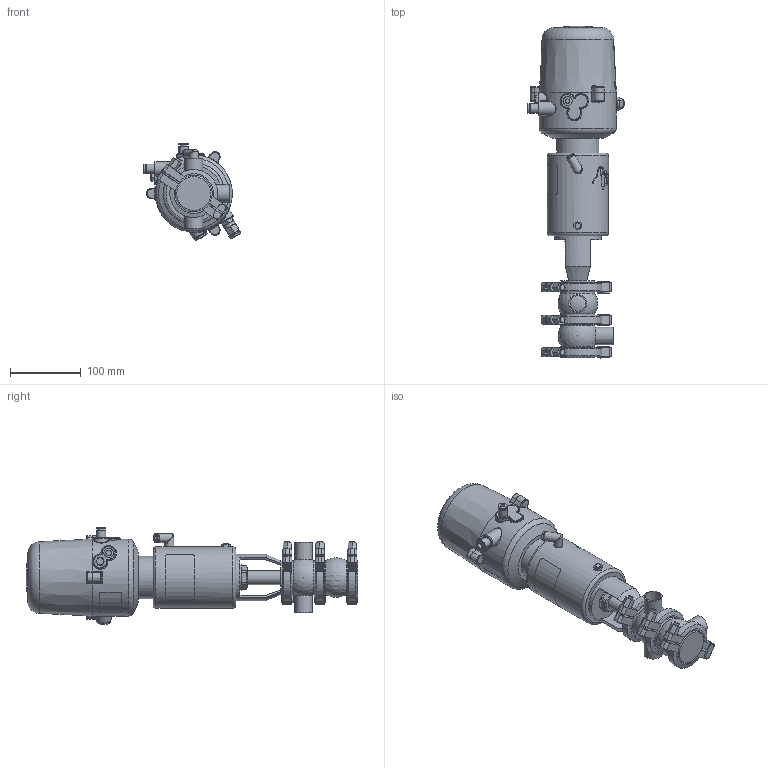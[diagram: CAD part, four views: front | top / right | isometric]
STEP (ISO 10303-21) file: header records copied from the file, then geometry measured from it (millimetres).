
FILE_DESCRIPTION (( 'STEP AP214' ), '1' );
FILE_NAME ('INNOVA M A W OD 1 T1 AS NC & C-TOP S_10.241.16.0037.STEP', '2024-08-07T07:02:39', ( '' ), ( '' ), 'SwSTEP 2.0', 'SolidWorks 2023', '' );
FILE_SCHEMA (( 'AUTOMOTIVE_DESIGN' ));
Length unit declared in the file: millimetre
Products named in the file (9): 10.240.15.0010_DN 025; 10.426.15.0001_C-TOP S - 1 EV; INNOVA M A W OD 1 T1 AS NC & C-TOP S_10.241.16.0037; 10.241.15.0001_DIN 025; 10.240.15.0006_OD 1"; 10.240.15.0017_Estàndard; 10.240.15.0001_DN 025; 10.240.15.0007_OD 1"; 10.240.15.0014_T1 AS P180
Assembly tree (10 placements, depth 2):
  INNOVA M A W OD 1 T1 AS NC & C-TOP S_10.241.16.0037
    10.240.15.0007_OD 1"
    10.240.15.0006_OD 1"
    10.240.15.0010_DN 025
    10.240.15.0014_T1 AS P180
    10.240.15.0017_Estàndard
    10.426.15.0001_C-TOP S - 1 EV
    10.240.15.0001_DN 025  x3
    10.241.15.0001_DIN 025
Bounding box: 136.88 x 470.09 x 137.63 mm (x, y, z)
Volume: 2538451.4 mm3; surface area: 248529.6 mm2
Topology: 11 solids, 11 shells, 1243 faces, 3014 edges, 2001 vertices
Faces by surface type: plane 443, cylinder 380, cone 215, bspline 160, torus 36, sphere 9
Full cylindrical faces by diameter (mm): 0.371 x17, 0.512 x16, 0.658 x16, 0.795 x16, 0.94 x15, 1.098 x15, 1.241 x13, 1.382 x13, 1.523 x11, 1.669 x10, 2.201 x1, 4 x2, 5.5 x2, 6 x2, 6.15 x1, 8 x8, 8.5 x1, 10 x1, 10.5 x1, 11 x2, 12.5 x3, 13 x2, 13.5 x2, 16 x1, 17 x3, 20 x3, 20.5 x1, 22 x2, 22.1 x3, 25.4 x3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
Entity records: 57165 total; most frequent: CARTESIAN_POINT 26702, ORIENTED_EDGE 4544, DIRECTION 3703, EDGE_CURVE 2272, VERTEX_POINT 1617, EDGE_LOOP 1583, AXIS2_PLACEMENT_3D 1519, FACE_OUTER_BOUND 1345
